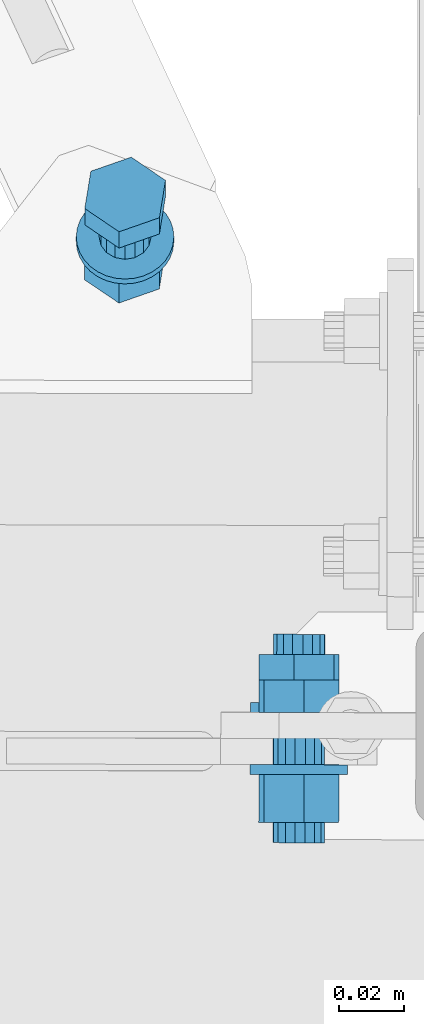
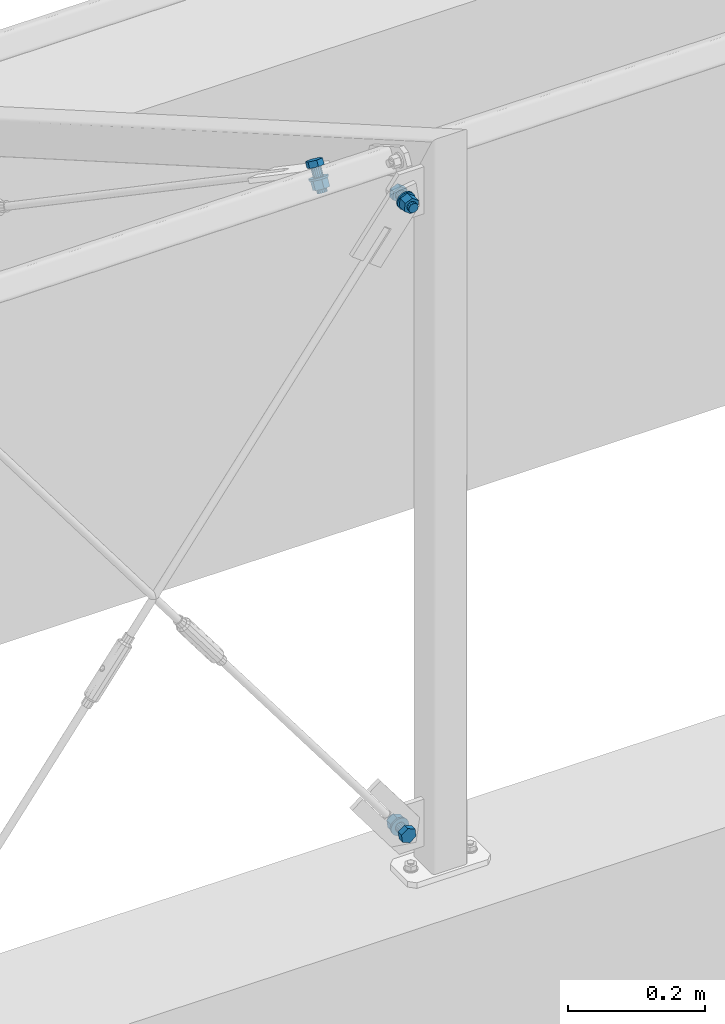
# One storey, part 197 of 288: 3 mechanical fasteners.
"""IFC2X3 building model written with IfcOpenShell, lengths in millimetres."""

import ifcopenshell
import ifcopenshell.guid

model = None  # the IFC model being written
_history = None  # IfcOwnerHistory: only IFC2X3 demands one
_inside = {}  # id of a spatial element -> (the spatial element, [elements in it])
_under = {}  # id of a project, library or spatial element -> (it, [spatial elements below it])
_declared = {}  # id of a project -> (the project, [libraries it declares])
_typed = {}  # id of a type object -> (the type object, [elements of that type])
_made_of = {}  # id of a material, layer set ... -> (it, [elements and type objects made of it])


def new_model(schema):
    """Start an empty IFC model of exactly this schema.

    Asked for "IFC4X3", IfcOpenShell would pick the latest addendum, in which some entities
    have other attributes; the version numbers below select the first issue.
    IFC2X3 requires an IfcOwnerHistory on every rooted entity: one is made here for all.
    """
    global model, _history
    if schema == "IFC4X3":
        model = ifcopenshell.file(schema_version=(4, 3, 0, 0))
    else:
        model = ifcopenshell.file(schema=schema)
    _inside.clear()
    _under.clear()
    _declared.clear()
    _typed.clear()
    _made_of.clear()
    _history = None
    if model.schema == "IFC2X3":
        org = make("IfcOrganization", Name="unknown")
        user = make(
            "IfcPersonAndOrganization",
            ThePerson=make("IfcPerson", FamilyName="unknown"),
            TheOrganization=org,
        )
        app = make(
            "IfcApplication",
            ApplicationDeveloper=org,
            Version="unknown",
            ApplicationFullName="unknown",
            ApplicationIdentifier="unknown",
        )
        _history = make(
            "IfcOwnerHistory",
            OwningUser=user,
            OwningApplication=app,
            ChangeAction="ADDED",
            CreationDate=0,
        )
    return model


def make(cls, **values):
    """One entity of the class cls with the attributes given. An attribute that is None is left unset."""
    return model.create_entity(
        cls, **{name: value for name, value in values.items() if value is not None}
    )


def entity(cls, *values):
    """Any entity or typed value of the class cls, its attributes in the order of the schema. None: left unset."""
    e = model.create_entity(cls)
    for i, value in enumerate(values):
        if value is not None:
            e[i] = value
    return e


def rooted(cls, **values):
    """An entity with a GlobalId (a new one), such as an element, a storey or a relation."""
    return make(cls, GlobalId=ifcopenshell.guid.new(), OwnerHistory=_history, **values)


def si_unit(unit_type, name, prefix=None):
    """IfcSIUnit, for example si_unit("LENGTHUNIT", "METRE", prefix="MILLI")."""
    return make("IfcSIUnit", UnitType=unit_type, Prefix=prefix, Name=name)


def converted_unit(unit_type, name, factor, base, dimensions=None, offset=None):
    """IfcConversionBasedUnit, such as the inch: factor (a typed value) times the base unit."""
    return make(
        "IfcConversionBasedUnit"
        if offset is None
        else "IfcConversionBasedUnitWithOffset",
        ConversionOffset=offset,
        Dimensions=None
        if dimensions is None
        else entity("IfcDimensionalExponents", *dimensions),
        UnitType=unit_type,
        Name=name,
        ConversionFactor=make(
            "IfcMeasureWithUnit", ValueComponent=factor, UnitComponent=base
        ),
    )


def assignment(units):
    """IfcUnitAssignment: the units of a project."""
    return None if units is None else make("IfcUnitAssignment", Units=units)


def point(xyz):
    """IfcCartesianPoint."""
    return None if xyz is None else make("IfcCartesianPoint", Coordinates=xyz)


def direction(xyz):
    """IfcDirection."""
    return None if xyz is None else make("IfcDirection", DirectionRatios=xyz)


def frame(location, z_axis=None, x_axis=None):
    """IfcAxis2Placement3D, a coordinate frame: its origin and axes. An axis left out is left unset."""
    return make(
        "IfcAxis2Placement3D",
        Location=point(location),
        Axis=direction(z_axis),
        RefDirection=direction(x_axis),
    )


def origin_with_axes():
    """The frame at (0, 0, 0) with the z axis (0, 0, 1) and the x axis (1, 0, 0) written out."""
    return frame((0.0, 0.0, 0.0), z_axis=(0.0, 0.0, 1.0), x_axis=(1.0, 0.0, 0.0))


def place(relative_to, where):
    """IfcLocalPlacement: puts the frame where relative to a parent placement (None: the world)."""
    return make(
        "IfcLocalPlacement", PlacementRelTo=relative_to, RelativePlacement=where
    )


def context(
    kind, dimensions, precision=None, world=None, true_north=None, identifier=None
):
    """IfcGeometricRepresentationContext, for example the 3D "Model" context."""
    return make(
        "IfcGeometricRepresentationContext",
        ContextIdentifier=identifier,
        ContextType=kind,
        CoordinateSpaceDimension=dimensions,
        Precision=precision,
        WorldCoordinateSystem=world,
        TrueNorth=true_north,
    )


def project(units=None, contexts=None):
    """IfcProject with its units and contexts."""
    return rooted(
        "IfcProject",
        Name="project",
        RepresentationContexts=contexts,
        UnitsInContext=assignment(units),
    )


def spatial(cls, under=None, at=None, **own):
    """A site, building, storey or space (cls), placed at a placement, below another one or the project."""
    s = rooted(cls, ObjectPlacement=at, **own)
    if under is not None:
        _under.setdefault(under.id(), (under, []))[1].append(s)
    return s


def faces_of(points, faces, orient=None, outer=None):
    """IfcFace entities. A face is a list of loops; a loop is a list of indices into points, from 0.

    orient and outer hold one flag for each loop. By default every Orientation is true, the
    first loop of a face is its IfcFaceOuterBound and the others are IfcFaceBound.
    """
    made = []
    for i, loops in enumerate(faces):
        bounds = []
        for j, loop in enumerate(loops):
            is_outer = j == 0 if outer is None else outer[i][j]
            bounds.append(
                make(
                    "IfcFaceOuterBound" if is_outer else "IfcFaceBound",
                    Bound=make("IfcPolyLoop", Polygon=[points[k] for k in loop]),
                    Orientation=True if orient is None else orient[i][j],
                )
            )
        made.append(make("IfcFace", Bounds=bounds))
    return made


def faceted_brep(points, faces, orient=None, outer=None, voids=None):
    """IfcFacetedBrep: a solid bounded by flat faces; with voids (closed shells), ...WithVoids."""
    shared = [point(p) for p in points]
    hull = make("IfcClosedShell", CfsFaces=faces_of(shared, faces, orient, outer))
    if voids is None:
        return make("IfcFacetedBrep", Outer=hull)
    return make(
        "IfcFacetedBrepWithVoids",
        Outer=hull,
        Voids=[
            make(cls, CfsFaces=faces_of(shared, fs, o, b)) for cls, fs, o, b in voids
        ],
    )


def shape(context_of_items, identifier, shape_type, items):
    """IfcShapeRepresentation: the items that make up one representation, for example the "Body"."""
    return make(
        "IfcShapeRepresentation",
        ContextOfItems=context_of_items,
        RepresentationIdentifier=identifier,
        RepresentationType=shape_type,
        Items=items,
    )


def made_of(thing, what):
    """Note that an element or type object is made of a material, layer set ...; save() writes the relation."""
    if what is not None:
        _made_of.setdefault(what.id(), (what, []))[1].append(thing)
    return thing


def element(
    cls,
    number,
    at=None,
    inside=None,
    cuts=None,
    type_object=None,
    material=None,
    context=None,
    identifier="Body",
    shape_type=None,
    held_by="IfcProductDefinitionShape",
    body=None,
    shapes=None,
    **own,
):
    """One element of the class cls, such as IfcWall. Its Tag is "e" and its number.

    at: its placement. inside: the storey or other place that contains it. cuts: it is an
    opening in that element (IfcRelVoidsElement). A single representation is given by context,
    identifier, shape_type and body (its items); several are given by shapes. held_by: the class
    of the entity that holds the representations. save() writes the other relations.
    """
    e = rooted(cls, Tag="e%d" % number, ObjectPlacement=at, **own)
    if body is not None:
        shapes = [shape(context, identifier, shape_type, body)]
    if shapes is not None:
        e.Representation = make(held_by, Representations=shapes)
    if inside is not None:
        _inside.setdefault(inside.id(), (inside, []))[1].append(e)
    if cuts is not None:
        rooted(
            "IfcRelVoidsElement", RelatingBuildingElement=cuts, RelatedOpeningElement=e
        )
    if type_object is not None:
        _typed.setdefault(type_object.id(), (type_object, []))[1].append(e)
    return made_of(e, material)


def aggregate(whole, parts):
    """IfcRelAggregates: a whole, such as a stair, and the parts it consists of."""
    return rooted("IfcRelAggregates", RelatingObject=whole, RelatedObjects=parts)


def save(model, path):
    """Write the relations noted so far, then the file.

    IfcRelAggregates (storeys below a building ...), IfcRelContainedInSpatialStructure (elements
    in a storey), IfcRelDefinesByType, IfcRelAssociatesMaterial and IfcRelDeclares: one each for
    every whole, place, type object, material and project.
    """
    for whole, parts in _under.values():
        aggregate(whole, parts)
    for where, things in _inside.values():
        rooted(
            "IfcRelContainedInSpatialStructure",
            RelatedElements=things,
            RelatingStructure=where,
        )
    for kind, things in _typed.values():
        rooted("IfcRelDefinesByType", RelatedObjects=things, RelatingType=kind)
    for what, things in _made_of.values():
        rooted("IfcRelAssociatesMaterial", RelatedObjects=things, RelatingMaterial=what)
    for by, libraries in _declared.values():
        rooted("IfcRelDeclares", RelatingContext=by, RelatedDefinitions=libraries)
    model.write(path)


model = new_model("IFC2X3")

# Units and contexts
model_context = context("Model", 3, precision=1e-09, world=origin_with_axes())
ifc_project = project(units=[si_unit("LENGTHUNIT", "METRE", prefix="MILLI"), si_unit("AREAUNIT", "SQUARE_METRE"), si_unit("VOLUMEUNIT", "CUBIC_METRE"), converted_unit("PLANEANGLEUNIT", "DEGREE", entity("IfcPlaneAngleMeasure", 0.01745329), si_unit("PLANEANGLEUNIT", "RADIAN"), dimensions=[0, 0, 0, 0, 0, 0, 0])], contexts=[model_context])

# Site, building, storey
site_placement = place(None, origin_with_axes())
site = spatial("IfcSite", under=ifc_project, at=site_placement, Name="Remont ?wietlik?w nad MC w NCPP w Opolu", CompositionType="ELEMENT")
building_placement = place(site_placement, origin_with_axes())
building = spatial("IfcBuilding", under=site, at=building_placement, Name="Konstrukcja 1", CompositionType="ELEMENT")
storey_placement = place(building_placement, origin_with_axes())
storey = spatial("IfcBuildingStorey", under=building, at=storey_placement, Name="Default Storey", CompositionType="ELEMENT", Elevation=0.0)

# Mechanical fasteners
mechanical_fastener_1_placement = place(None, origin_with_axes())
element("IfcMechanicalFastener", 1, at=mechanical_fastener_1_placement, inside=storey, ObjectType="Bolt#1", NominalDiameter=16.0, NominalLength=40.0, context=model_context, shape_type="Brep", body=[
    faceted_brep([(2870.969483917, -127.465781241, 1203.52010904), (2870.993046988, -117.465809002, 1203.52010904), (2883.284130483, -117.49477065, 1208.794486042), (2883.260567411, -127.494742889, 1208.794486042), (2884.861940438, -117.498488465, 1222.076094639), (2884.838377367, -127.498460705, 1222.076094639), (2874.148666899, -117.473244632, 1230.083326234), (2874.125103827, -127.473216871, 1230.083326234), (2861.857583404, -117.444282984, 1224.808949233), (2861.834020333, -127.444255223, 1224.808949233), (2860.279773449, -117.440565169, 1211.527340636), (2860.256210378, -127.440537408, 1211.527340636)], [[[0, 1, 2, 3]], [[3, 2, 4, 5]], [[5, 4, 6, 7]], [[7, 6, 8, 9]], [[9, 8, 10, 11]], [[11, 10, 1, 0]], [[4, 2, 1, 10, 8, 6]], [[0, 3, 5, 7, 9, 11]]]),
    faceted_brep([(2877.336652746, -127.480784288, 1223.20967474), (2877.298951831, -143.480739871, 1223.20967474), (2879.386595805, -143.485659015, 1220.889084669), (2879.42429672, -127.485703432, 1220.889084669), (2880.427278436, -143.488111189, 1217.94623002), (2880.464979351, -127.488155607, 1217.94623002), (2880.262565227, -143.487723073, 1214.829133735), (2880.300266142, -127.487767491, 1214.829133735), (2878.917532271, -143.484553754, 1212.012345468), (2878.955233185, -127.484598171, 1212.012345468), (2876.596948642, -143.479085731, 1209.924695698), (2876.634649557, -127.479130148, 1209.924695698), (2873.654102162, -143.472151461, 1208.884010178), (2873.691803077, -127.472195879, 1208.884010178), (2870.537014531, -143.464806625, 1209.048723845), (2870.574715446, -127.464851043, 1209.048723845), (2867.720234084, -143.458169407, 1210.393760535), (2867.757934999, -127.458213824, 1210.393760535), (2865.63259011, -143.453250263, 1212.714350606), (2865.670291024, -127.45329468, 1212.714350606), (2864.591907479, -143.450798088, 1215.657205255), (2864.629608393, -127.450842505, 1215.657205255), (2864.756620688, -143.451186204, 1218.77430154), (2864.794321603, -127.451230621, 1218.77430154), (2866.101653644, -143.454355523, 1221.591089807), (2866.139354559, -127.454399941, 1221.591089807), (2868.422237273, -143.459823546, 1223.678739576), (2868.459938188, -127.459867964, 1223.678739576), (2871.365083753, -143.466757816, 1224.719425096), (2871.402784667, -127.466802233, 1224.719425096), (2874.482171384, -143.474102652, 1224.55471143), (2874.519872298, -127.47414707, 1224.55471143)], [[[0, 1, 2, 3]], [[3, 2, 4, 5]], [[5, 4, 6, 7]], [[7, 6, 8, 9]], [[9, 8, 10, 11]], [[11, 10, 12, 13]], [[13, 12, 14, 15]], [[15, 14, 16, 17]], [[17, 16, 18, 19]], [[19, 18, 20, 21]], [[21, 20, 22, 23]], [[23, 22, 24, 25]], [[25, 24, 26, 27]], [[27, 26, 28, 29]], [[29, 28, 30, 31]], [[31, 30, 1, 0]], [[0, 3, 5, 7, 9, 11, 13, 15, 17, 19, 21, 23, 25, 27, 29, 31]], [[1, 30, 28, 26, 24, 22, 20, 18, 16, 14, 12, 10, 8, 6, 4, 2]]]),
    faceted_brep([(2881.489640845, -143.490614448, 1228.816637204), (2881.482571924, -146.49060612, 1228.816637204), (2883.654010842, -146.495722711, 1226.833848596), (2883.661079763, -143.49573104, 1226.833848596), (2885.396904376, -146.499829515, 1224.465530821), (2885.403973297, -143.499837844, 1224.465530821), (2886.644274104, -146.50276871, 1221.802697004), (2886.651343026, -143.502777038, 1221.802697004), (2887.348184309, -146.504427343, 1218.947678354), (2887.35525323, -143.504435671, 1218.947678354), (2887.481584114, -146.504741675, 1216.010191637), (2887.488653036, -143.504750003, 1216.010191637), (2887.039347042, -146.503699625, 1213.10312282), (2887.046415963, -143.503707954, 1213.10312282), (2886.038468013, -146.501341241, 1210.338188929), (2886.045536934, -143.501349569, 1210.338188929), (2884.517410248, -146.497757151, 1207.82164482), (2884.52447917, -143.49776548, 1207.82164482), (2882.534627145, -146.493085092, 1205.650199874), (2882.541696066, -143.493093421, 1205.650199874), (2880.166315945, -146.487504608, 1203.907301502), (2880.173384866, -143.487512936, 1203.907301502), (2877.503489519, -146.481230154, 1202.65992831), (2877.510558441, -143.481238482, 1202.65992831), (2874.648478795, -146.474502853, 1201.956016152), (2874.655547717, -143.474511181, 1201.956016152), (2871.711000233, -146.467581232, 1201.822615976), (2871.718069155, -143.46758956, 1201.822615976), (2868.803939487, -146.460731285, 1202.264854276), (2868.811008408, -143.460739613, 1202.264854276), (2866.039013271, -146.454216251, 1203.265736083), (2866.046082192, -143.45422458, 1203.265736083), (2863.522476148, -146.448286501, 1204.786798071), (2863.52954507, -143.448294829, 1204.786798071), (2861.35103723, -146.443169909, 1206.769586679), (2861.358106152, -143.443178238, 1206.769586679), (2859.608143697, -146.439063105, 1209.137904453), (2859.615212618, -143.439071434, 1209.137904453), (2858.360773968, -146.436123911, 1211.800738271), (2858.367842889, -143.436132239, 1211.800738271), (2857.656863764, -146.434465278, 1214.655756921), (2857.663932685, -143.434473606, 1214.655756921), (2857.523463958, -146.434150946, 1217.593243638), (2857.530532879, -143.434159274, 1217.593243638), (2857.965701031, -146.435192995, 1220.500312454), (2857.972769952, -143.435201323, 1220.500312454), (2858.966580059, -146.43755138, 1223.265246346), (2858.973648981, -143.437559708, 1223.265246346), (2860.487637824, -146.441135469, 1225.781790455), (2860.494706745, -143.441143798, 1225.781790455), (2862.470420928, -146.445807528, 1227.953235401), (2862.477489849, -143.445815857, 1227.953235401), (2864.838732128, -146.451388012, 1229.696133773), (2864.845801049, -143.451396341, 1229.696133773), (2867.501558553, -146.457662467, 1230.943506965), (2867.508627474, -143.457670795, 1230.943506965), (2870.356569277, -146.464389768, 1231.647419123), (2870.363638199, -143.464398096, 1231.647419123), (2873.294047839, -146.471311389, 1231.780819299), (2873.301116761, -143.471319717, 1231.780819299), (2876.201108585, -146.478161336, 1231.338580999), (2876.208177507, -143.478169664, 1231.338580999), (2878.966034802, -146.484676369, 1230.337699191), (2878.973103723, -143.484684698, 1230.337699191)], [[[0, 1, 2, 3]], [[3, 2, 4, 5]], [[5, 4, 6, 7]], [[7, 6, 8, 9]], [[9, 8, 10, 11]], [[11, 10, 12, 13]], [[13, 12, 14, 15]], [[15, 14, 16, 17]], [[17, 16, 18, 19]], [[19, 18, 20, 21]], [[21, 20, 22, 23]], [[23, 22, 24, 25]], [[25, 24, 26, 27]], [[27, 26, 28, 29]], [[29, 28, 30, 31]], [[31, 30, 32, 33]], [[33, 32, 34, 35]], [[35, 34, 36, 37]], [[37, 36, 38, 39]], [[39, 38, 40, 41]], [[41, 40, 42, 43]], [[43, 42, 44, 45]], [[45, 44, 46, 47]], [[47, 46, 48, 49]], [[49, 48, 50, 51]], [[51, 50, 52, 53]], [[53, 52, 54, 55]], [[55, 54, 56, 57]], [[57, 56, 58, 59]], [[59, 58, 60, 61]], [[61, 60, 62, 63]], [[63, 62, 1, 0]], [[0, 3, 5, 7, 9, 11, 13, 15, 17, 19, 21, 23, 25, 27, 29, 31, 33, 35, 37, 39, 41, 43, 45, 47, 49, 51, 53, 55, 57, 59, 61, 63]], [[1, 62, 60, 58, 56, 54, 52, 50, 48, 46, 44, 42, 40, 38, 36, 34, 32, 30, 28, 26, 24, 22, 20, 18, 16, 14, 12, 10, 8, 6, 4, 2]]]),
    faceted_brep([(2870.889840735, -161.265687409, 1203.52010904), (2870.924714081, -146.465728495, 1203.52010904), (2883.215797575, -146.494690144, 1208.794486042), (2883.180924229, -161.294649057, 1208.794486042), (2884.793607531, -146.498407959, 1222.076094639), (2884.758734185, -161.298366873, 1222.076094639), (2874.080333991, -146.473164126, 1230.083326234), (2874.045460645, -161.273123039, 1230.083326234), (2861.789250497, -146.444202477, 1224.808949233), (2861.754377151, -161.244161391, 1224.808949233), (2860.211440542, -146.440484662, 1211.527340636), (2860.176567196, -161.240443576, 1211.527340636)], [[[0, 1, 2, 3]], [[3, 2, 4, 5]], [[5, 4, 6, 7]], [[7, 6, 8, 9]], [[9, 8, 10, 11]], [[11, 10, 1, 0]], [[4, 2, 1, 10, 8, 6]], [[0, 3, 5, 7, 9, 11]]]),
    faceted_brep([(2877.257009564, -161.280690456, 1223.20967474), (2877.242400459, -167.480673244, 1223.20967474), (2879.330044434, -167.485592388, 1220.889084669), (2879.344653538, -161.2856096, 1220.889084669), (2880.370727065, -167.488044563, 1217.94623002), (2880.385336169, -161.288061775, 1217.94623002), (2880.206013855, -167.487656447, 1214.829133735), (2880.22062296, -161.287673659, 1214.829133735), (2878.860980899, -167.484487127, 1212.012345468), (2878.875590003, -161.284504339, 1212.012345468), (2876.54039727, -167.479019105, 1209.924695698), (2876.555006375, -161.279036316, 1209.924695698), (2873.597550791, -167.472084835, 1208.884010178), (2873.612159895, -161.272102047, 1208.884010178), (2870.48046316, -167.464739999, 1209.048723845), (2870.495072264, -161.264757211, 1209.048723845), (2867.663682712, -167.45810278, 1210.393760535), (2867.678291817, -161.258119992, 1210.393760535), (2865.576038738, -167.453183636, 1212.714350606), (2865.590647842, -161.253200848, 1212.714350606), (2864.535356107, -167.450731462, 1215.657205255), (2864.549965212, -161.250748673, 1215.657205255), (2864.700069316, -167.451119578, 1218.77430154), (2864.714678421, -161.251136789, 1218.77430154), (2866.045102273, -167.454288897, 1221.591089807), (2866.059711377, -161.254306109, 1221.591089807), (2868.365685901, -167.45975692, 1223.678739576), (2868.380295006, -161.259774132, 1223.678739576), (2871.308532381, -167.46669119, 1224.719425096), (2871.323141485, -161.266708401, 1224.719425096), (2874.425620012, -167.474036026, 1224.55471143), (2874.440229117, -161.274053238, 1224.55471143)], [[[0, 1, 2, 3]], [[3, 2, 4, 5]], [[5, 4, 6, 7]], [[7, 6, 8, 9]], [[9, 8, 10, 11]], [[11, 10, 12, 13]], [[13, 12, 14, 15]], [[15, 14, 16, 17]], [[17, 16, 18, 19]], [[19, 18, 20, 21]], [[21, 20, 22, 23]], [[23, 22, 24, 25]], [[25, 24, 26, 27]], [[27, 26, 28, 29]], [[29, 28, 30, 31]], [[31, 30, 1, 0]], [[0, 3, 5, 7, 9, 11, 13, 15, 17, 19, 21, 23, 25, 27, 29, 31]], [[1, 30, 28, 26, 24, 22, 20, 18, 16, 14, 12, 10, 8, 6, 4, 2]]]),
])
mechanical_fastener_2_placement = place(None, origin_with_axes())
element("IfcMechanicalFastener", 2, at=mechanical_fastener_2_placement, inside=storey, ObjectType="Bolt#1", NominalDiameter=16.0, NominalLength=40.0, context=model_context, shape_type="Brep", body=[
    faceted_brep([(2870.932717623, -143.38640896, 101.479891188), (2870.91104251, -153.386385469, 101.479891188), (2883.202131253, -153.413026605, 96.205514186), (2883.223806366, -143.413050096, 96.205514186), (2884.779941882, -153.416446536, 82.923905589), (2884.801616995, -143.416470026, 82.923905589), (2874.066663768, -153.39322533, 74.916673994), (2874.088338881, -143.39324882, 74.916673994), (2861.775575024, -153.366584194, 80.191050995), (2861.797250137, -143.366607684, 80.191050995), (2860.197764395, -153.363164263, 93.472659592), (2860.219439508, -143.363187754, 93.472659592)], [[[0, 1, 2, 3]], [[3, 2, 4, 5]], [[5, 4, 6, 7]], [[7, 6, 8, 9]], [[9, 8, 10, 11]], [[11, 10, 1, 0]], [[4, 2, 1, 10, 8, 6]], [[0, 3, 5, 7, 9, 11]]]),
    faceted_brep([(2877.29988917, -143.400209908, 81.790325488), (2877.334569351, -127.400247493, 81.790325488), (2879.422214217, -127.404772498, 84.110915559), (2879.387534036, -143.404734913, 84.110915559), (2880.462897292, -127.407028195, 87.053770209), (2880.428217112, -143.40699061, 87.053770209), (2880.298184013, -127.406671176, 90.170866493), (2880.263503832, -143.406633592, 90.170866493), (2878.953150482, -127.403755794, 92.98765476), (2878.918470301, -143.403718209, 92.98765476), (2876.632565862, -127.398725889, 95.07530453), (2876.597885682, -143.398688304, 95.07530453), (2873.689718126, -127.392347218, 96.11599005), (2873.655037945, -143.392309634, 96.11599005), (2870.572629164, -127.385590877, 95.951276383), (2870.537948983, -143.385553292, 95.951276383), (2867.755847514, -127.379485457, 94.606239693), (2867.721167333, -143.379447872, 94.606239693), (2865.668202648, -127.374960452, 92.285649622), (2865.633522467, -143.374922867, 92.285649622), (2864.627519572, -127.372704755, 89.342794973), (2864.592839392, -143.37266717, 89.342794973), (2864.792232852, -127.373061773, 86.225698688), (2864.757552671, -143.373024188, 86.225698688), (2866.137266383, -127.375977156, 83.408910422), (2866.102586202, -143.375939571, 83.408910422), (2868.457851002, -127.381007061, 81.321260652), (2868.423170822, -143.380969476, 81.321260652), (2871.400698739, -127.387385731, 80.280575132), (2871.366018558, -143.387348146, 80.280575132), (2874.517787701, -127.394142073, 80.445288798), (2874.48310752, -143.394104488, 80.445288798)], [[[0, 1, 2, 3]], [[3, 2, 4, 5]], [[5, 4, 6, 7]], [[7, 6, 8, 9]], [[9, 8, 10, 11]], [[11, 10, 12, 13]], [[13, 12, 14, 15]], [[15, 14, 16, 17]], [[17, 16, 18, 19]], [[19, 18, 20, 21]], [[21, 20, 22, 23]], [[23, 22, 24, 25]], [[25, 24, 26, 27]], [[27, 26, 28, 29]], [[29, 28, 30, 31]], [[31, 30, 1, 0]], [[0, 3, 5, 7, 9, 11, 13, 15, 17, 19, 21, 23, 25, 27, 29, 31]], [[1, 30, 28, 26, 24, 22, 20, 18, 16, 14, 12, 10, 8, 6, 4, 2]]]),
    faceted_brep([(2881.525260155, -127.409330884, 76.183363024), (2881.531762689, -124.409337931, 76.183363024), (2883.703202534, -124.414044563, 78.166151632), (2883.6967, -127.414037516, 78.166151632), (2885.446096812, -124.417822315, 80.534469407), (2885.439594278, -127.417815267, 80.534469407), (2886.693467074, -124.42052601, 83.197303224), (2886.68696454, -127.420518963, 83.197303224), (2887.397377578, -124.422051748, 86.052321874), (2887.390875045, -127.4220447, 86.052321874), (2887.530777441, -124.422340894, 88.989808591), (2887.524274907, -127.422333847, 88.989808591), (2887.088540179, -124.421382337, 91.896877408), (2887.082037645, -127.42137529, 91.896877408), (2886.087660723, -124.419212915, 94.6618113), (2886.081158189, -127.419205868, 94.6618113), (2884.566602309, -124.415915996, 97.178355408), (2884.560099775, -127.415908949, 97.178355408), (2882.583818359, -124.411618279, 99.349800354), (2882.577315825, -127.411611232, 99.349800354), (2880.215506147, -124.406484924, 101.092698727), (2880.209003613, -127.406477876, 101.092698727), (2877.552678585, -124.400713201, 102.340071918), (2877.546176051, -127.400706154, 102.340071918), (2874.697666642, -124.394524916, 103.043984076), (2874.691164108, -127.394517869, 103.043984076), (2871.760186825, -124.388157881, 103.177384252), (2871.753684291, -127.388150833, 103.177384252), (2868.853124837, -124.381856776, 102.735145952), (2868.846622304, -127.381849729, 102.735145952), (2866.08819744, -124.375863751, 101.734264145), (2866.081694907, -127.375856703, 101.734264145), (2863.571659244, -124.370409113, 100.213202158), (2863.56515671, -127.370402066, 100.213202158), (2861.400219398, -124.365702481, 98.230413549), (2861.393716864, -127.365695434, 98.230413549), (2859.65732512, -124.36192473, 95.862095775), (2859.650822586, -127.361917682, 95.862095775), (2858.409954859, -124.359221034, 93.199261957), (2858.403452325, -127.359213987, 93.199261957), (2857.706044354, -124.357695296, 90.344243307), (2857.69954182, -127.357688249, 90.344243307), (2857.572644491, -124.35740615, 87.40675659), (2857.566141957, -127.357399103, 87.40675659), (2858.014881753, -124.358364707, 84.499687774), (2858.008379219, -127.358357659, 84.499687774), (2859.015761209, -124.360534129, 81.734753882), (2859.009258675, -127.360527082, 81.734753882), (2860.536819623, -124.363831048, 79.218209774), (2860.530317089, -127.363824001, 79.218209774), (2862.519603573, -124.368128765, 77.046764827), (2862.51310104, -127.368121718, 77.046764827), (2864.887915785, -124.37326212, 75.303866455), (2864.881413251, -127.373255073, 75.303866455), (2867.550743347, -124.379033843, 74.056493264), (2867.544240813, -127.379026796, 74.056493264), (2870.405755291, -124.385222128, 73.352581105), (2870.399252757, -127.385215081, 73.352581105), (2873.343235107, -124.391589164, 73.219180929), (2873.336732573, -127.391582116, 73.219180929), (2876.250297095, -124.397890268, 73.66141923), (2876.243794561, -127.397883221, 73.66141923), (2879.015224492, -124.403883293, 74.662301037), (2879.008721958, -127.403876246, 74.662301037)], [[[0, 1, 2, 3]], [[3, 2, 4, 5]], [[5, 4, 6, 7]], [[7, 6, 8, 9]], [[9, 8, 10, 11]], [[11, 10, 12, 13]], [[13, 12, 14, 15]], [[15, 14, 16, 17]], [[17, 16, 18, 19]], [[19, 18, 20, 21]], [[21, 20, 22, 23]], [[23, 22, 24, 25]], [[25, 24, 26, 27]], [[27, 26, 28, 29]], [[29, 28, 30, 31]], [[31, 30, 32, 33]], [[33, 32, 34, 35]], [[35, 34, 36, 37]], [[37, 36, 38, 39]], [[39, 38, 40, 41]], [[41, 40, 42, 43]], [[43, 42, 44, 45]], [[45, 44, 46, 47]], [[47, 46, 48, 49]], [[49, 48, 50, 51]], [[51, 50, 52, 53]], [[53, 52, 54, 55]], [[55, 54, 56, 57]], [[57, 56, 58, 59]], [[59, 58, 60, 61]], [[61, 60, 62, 63]], [[63, 62, 1, 0]], [[0, 3, 5, 7, 9, 11, 13, 15, 17, 19, 21, 23, 25, 27, 29, 31, 33, 35, 37, 39, 41, 43, 45, 47, 49, 51, 53, 55, 57, 59, 61, 63]], [[1, 62, 60, 58, 56, 54, 52, 50, 48, 46, 44, 42, 40, 38, 36, 34, 32, 30, 28, 26, 24, 22, 20, 18, 16, 14, 12, 10, 8, 6, 4, 2]]]),
    faceted_brep([(2871.005979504, -109.586488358, 101.479891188), (2870.973900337, -124.386453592, 101.479891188), (2883.26498908, -124.413094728, 96.205514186), (2883.297068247, -109.613129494, 96.205514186), (2884.842799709, -124.416514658, 82.923905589), (2884.874878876, -109.616549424, 82.923905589), (2874.129521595, -124.393293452, 74.916673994), (2874.161600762, -109.593328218, 74.916673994), (2861.838432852, -124.366652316, 80.191050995), (2861.870512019, -109.566687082, 80.191050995), (2860.260622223, -124.363232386, 93.472659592), (2860.29270139, -109.563267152, 93.472659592)], [[[0, 1, 2, 3]], [[3, 2, 4, 5]], [[5, 4, 6, 7]], [[7, 6, 8, 9]], [[9, 8, 10, 11]], [[11, 10, 1, 0]], [[4, 2, 1, 10, 8, 6]], [[0, 3, 5, 7, 9, 11]]]),
    faceted_brep([(2877.373151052, -109.600289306, 81.790325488), (2877.386589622, -103.40030387, 81.790325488), (2879.474234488, -103.404828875, 84.110915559), (2879.460795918, -109.604814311, 84.110915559), (2880.514917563, -103.407084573, 87.053770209), (2880.501478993, -109.607070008, 87.053770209), (2880.350204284, -103.406727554, 90.170866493), (2880.336765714, -109.60671299, 90.170866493), (2879.005170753, -103.403812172, 92.98765476), (2878.991732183, -109.603797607, 92.98765476), (2876.684586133, -103.398782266, 95.07530453), (2876.671147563, -109.598767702, 95.07530453), (2873.741738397, -103.392403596, 96.11599005), (2873.728299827, -109.592389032, 96.11599005), (2870.624649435, -103.385647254, 95.951276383), (2870.611210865, -109.58563269, 95.951276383), (2867.807867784, -103.379541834, 94.606239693), (2867.794429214, -109.57952727, 94.606239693), (2865.720222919, -103.37501683, 92.285649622), (2865.706784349, -109.575002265, 92.285649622), (2864.679539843, -103.372761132, 89.342794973), (2864.666101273, -109.572746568, 89.342794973), (2864.844253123, -103.373118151, 86.225698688), (2864.830814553, -109.573103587, 86.225698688), (2866.189286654, -103.376033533, 83.408910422), (2866.175848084, -109.576018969, 83.408910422), (2868.509871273, -103.381063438, 81.321260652), (2868.496432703, -109.581048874, 81.321260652), (2871.45271901, -103.387442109, 80.280575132), (2871.43928044, -109.587427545, 80.280575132), (2874.569807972, -103.39419845, 80.445288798), (2874.556369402, -109.594183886, 80.445288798)], [[[0, 1, 2, 3]], [[3, 2, 4, 5]], [[5, 4, 6, 7]], [[7, 6, 8, 9]], [[9, 8, 10, 11]], [[11, 10, 12, 13]], [[13, 12, 14, 15]], [[15, 14, 16, 17]], [[17, 16, 18, 19]], [[19, 18, 20, 21]], [[21, 20, 22, 23]], [[23, 22, 24, 25]], [[25, 24, 26, 27]], [[27, 26, 28, 29]], [[29, 28, 30, 31]], [[31, 30, 1, 0]], [[0, 3, 5, 7, 9, 11, 13, 15, 17, 19, 21, 23, 25, 27, 29, 31]], [[1, 30, 28, 26, 24, 22, 20, 18, 16, 14, 12, 10, 8, 6, 4, 2]]]),
])
mechanical_fastener_3_placement = place(None, origin_with_axes())
element("IfcMechanicalFastener", 3, at=mechanical_fastener_3_placement, inside=storey, ObjectType="Bolt#1", NominalDiameter=16.0, NominalLength=40.0, context=model_context, shape_type="Brep", body=[
    faceted_brep([(2808.588096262, 38.885004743, 1197.128882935), (2808.576824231, 33.885020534, 1188.468627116), (2806.713438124, 22.415934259, 1195.092710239), (2806.724710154, 27.415918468, 1203.752966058), (2817.251864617, 15.277384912, 1199.200423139), (2817.263136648, 20.277369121, 1207.860678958), (2829.653677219, 19.607921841, 1196.684052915), (2829.664949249, 24.60790605, 1205.344308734), (2831.517063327, 31.077008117, 1190.059969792), (2831.528335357, 36.076992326, 1198.720225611), (2820.978636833, 38.215557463, 1185.952256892), (2820.989908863, 43.215541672, 1194.612512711)], [[[0, 1, 2, 3]], [[3, 2, 4, 5]], [[5, 4, 6, 7]], [[7, 6, 8, 9]], [[9, 8, 10, 11]], [[11, 10, 1, 0]], [[3, 5, 7, 9, 11, 0]], [[2, 1, 10, 8, 6, 4]]]),
    faceted_brep([(2822.092975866, 12.320702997, 1182.42595258), (2822.111011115, 20.320677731, 1196.282361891), (2819.044262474, 19.818574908, 1196.57624174), (2819.026227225, 11.818600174, 1182.719832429), (2815.988321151, 20.371181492, 1196.26117281), (2815.970285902, 12.371206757, 1182.4047635), (2813.408426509, 21.894368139, 1195.385121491), (2813.39039126, 13.894393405, 1181.528712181), (2811.697344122, 24.156243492, 1194.081458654), (2811.679308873, 16.156268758, 1180.225049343), (2811.115570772, 26.812457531, 1192.548655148), (2811.097535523, 18.812482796, 1178.692245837), (2811.751676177, 29.458625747, 1191.020066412), (2811.733640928, 21.458651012, 1177.163657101), (2813.508819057, 31.691893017, 1189.728406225), (2813.490783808, 23.691918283, 1175.871996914), (2816.119490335, 33.172264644, 1188.87031814), (2816.101455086, 25.17228991, 1175.01390883), (2819.186238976, 33.674367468, 1188.576438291), (2819.168203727, 25.674392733, 1174.720028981), (2822.242180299, 33.121760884, 1188.89150722), (2822.224145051, 25.12178615, 1175.03509791), (2824.822074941, 31.598574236, 1189.76755854), (2824.804039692, 23.598599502, 1175.911149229), (2826.533157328, 29.336698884, 1191.071221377), (2826.515122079, 21.336724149, 1177.214812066), (2827.114930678, 26.680484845, 1192.604024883), (2827.096895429, 18.680510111, 1178.747615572), (2826.478825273, 24.034316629, 1194.132613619), (2826.460790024, 16.034341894, 1180.276204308), (2824.721682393, 21.801049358, 1195.424273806), (2824.703647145, 13.801074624, 1181.567864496)], [[[0, 1, 2, 3]], [[3, 2, 4, 5]], [[5, 4, 6, 7]], [[7, 6, 8, 9]], [[9, 8, 10, 11]], [[11, 10, 12, 13]], [[13, 12, 14, 15]], [[15, 14, 16, 17]], [[17, 16, 18, 19]], [[19, 18, 20, 21]], [[21, 20, 22, 23]], [[23, 22, 24, 25]], [[25, 24, 26, 27]], [[27, 26, 28, 29]], [[29, 28, 30, 31]], [[31, 30, 1, 0]], [[2, 1, 30, 28, 26, 24, 22, 20, 18, 16, 14, 12, 10, 8, 6, 4]], [[31, 0, 3, 5, 7, 9, 11, 13, 15, 17, 19, 21, 23, 25, 27, 29]]]),
    faceted_brep([(2824.710884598, 5.19813846, 1183.070644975), (2824.714266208, 6.698133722, 1185.668721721), (2821.892907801, 5.982148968, 1186.08576655), (2821.889526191, 4.482153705, 1183.487689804), (2818.964112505, 5.756690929, 1186.219746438), (2818.960730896, 4.256695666, 1183.621669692), (2816.040432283, 6.030423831, 1186.065512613), (2816.037050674, 4.530428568, 1183.467435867), (2813.234222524, 6.792828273, 1185.628992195), (2813.230840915, 5.29283301, 1183.03091545), (2810.653324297, 8.01460548, 1184.926960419), (2810.649942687, 6.514610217, 1182.328883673), (2808.396920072, 9.648803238, 1183.986395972), (2808.393538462, 8.148807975, 1181.388319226), (2806.551722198, 11.632620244, 1182.843444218), (2806.548340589, 10.132624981, 1180.245367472), (2805.188640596, 13.889819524, 1181.542028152), (2805.185258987, 12.389824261, 1178.943951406), (2804.360057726, 16.333658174, 1180.132160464), (2804.356676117, 14.833662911, 1177.534083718), (2804.097815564, 18.870220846, 1178.668021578), (2804.094433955, 17.370225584, 1176.069944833), (2804.411991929, 21.40202886, 1177.205877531), (2804.40861032, 19.902033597, 1174.607800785), (2805.290513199, 23.831786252, 1175.801917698), (2805.28713159, 22.331790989, 1173.203840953), (2806.699618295, 26.066118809, 1174.510095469), (2806.696236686, 24.566123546, 1171.912018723), (2808.585156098, 28.019162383, 1173.380054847), (2808.581774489, 26.519167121, 1170.781978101), (2810.874666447, 29.615862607, 1172.45522266), (2810.871284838, 28.115867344, 1169.857145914), (2813.480164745, 30.794859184, 1171.771139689), (2813.476783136, 29.294863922, 1169.173062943), (2816.301523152, 31.510843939, 1171.35409486), (2816.298141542, 30.010848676, 1168.756018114), (2819.230318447, 31.736301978, 1171.220114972), (2819.226936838, 30.236306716, 1168.622038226), (2822.153998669, 31.462569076, 1171.374348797), (2822.15061706, 29.962573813, 1168.776272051), (2824.960208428, 30.700164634, 1171.810869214), (2824.956826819, 29.200169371, 1169.212792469), (2827.541106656, 29.478387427, 1172.512900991), (2827.537725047, 27.978392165, 1169.914824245), (2829.797510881, 27.844189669, 1173.453465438), (2829.794129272, 26.344194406, 1170.855388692), (2831.642708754, 25.860372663, 1174.596417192), (2831.639327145, 24.3603774, 1171.998340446), (2833.005790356, 23.603173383, 1175.897833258), (2833.002408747, 22.10317812, 1173.299756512), (2833.834373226, 21.159334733, 1177.307700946), (2833.830991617, 19.65933947, 1174.7096242), (2834.096615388, 18.622772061, 1178.771839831), (2834.093233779, 17.122776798, 1176.173763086), (2833.782439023, 16.090964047, 1180.233983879), (2833.779057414, 14.590968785, 1177.635907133), (2832.903917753, 13.661206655, 1181.637943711), (2832.900536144, 12.161211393, 1179.039866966), (2831.494812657, 11.426874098, 1182.929765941), (2831.491431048, 9.926878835, 1180.331689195), (2829.609274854, 9.473830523, 1184.059806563), (2829.605893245, 7.973835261, 1181.461729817), (2827.319764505, 7.8771303, 1184.98463875), (2827.316382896, 6.377135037, 1182.386562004)], [[[0, 1, 2, 3]], [[3, 2, 4, 5]], [[5, 4, 6, 7]], [[7, 6, 8, 9]], [[9, 8, 10, 11]], [[11, 10, 12, 13]], [[13, 12, 14, 15]], [[15, 14, 16, 17]], [[17, 16, 18, 19]], [[19, 18, 20, 21]], [[21, 20, 22, 23]], [[23, 22, 24, 25]], [[25, 24, 26, 27]], [[27, 26, 28, 29]], [[29, 28, 30, 31]], [[31, 30, 32, 33]], [[33, 32, 34, 35]], [[35, 34, 36, 37]], [[37, 36, 38, 39]], [[39, 38, 40, 41]], [[41, 40, 42, 43]], [[43, 42, 44, 45]], [[45, 44, 46, 47]], [[47, 46, 48, 49]], [[49, 48, 50, 51]], [[51, 50, 52, 53]], [[53, 52, 54, 55]], [[55, 54, 56, 57]], [[57, 56, 58, 59]], [[59, 58, 60, 61]], [[61, 60, 62, 63]], [[63, 62, 1, 0]], [[2, 1, 62, 60, 58, 56, 54, 52, 50, 48, 46, 44, 42, 40, 38, 36, 34, 32, 30, 28, 26, 24, 22, 20, 18, 16, 14, 12, 10, 8, 6, 4]], [[63, 0, 3, 5, 7, 9, 11, 13, 15, 17, 19, 21, 23, 25, 27, 29, 31, 33, 35, 37, 39, 41, 43, 45, 47, 49, 51, 53, 55, 57, 59, 61]]]),
    faceted_brep([(2808.555407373, 24.385050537, 1172.01414106), (2808.538724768, 16.985073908, 1159.196962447), (2806.67533866, 5.515987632, 1165.821045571), (2806.692021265, 12.915964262, 1178.638224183), (2817.213765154, -1.622561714, 1169.92875847), (2817.230447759, 5.777414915, 1182.745937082), (2829.615577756, 2.707975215, 1167.412388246), (2829.632260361, 10.107951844, 1180.229566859), (2831.478963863, 14.177061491, 1160.788305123), (2831.495646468, 21.57703812, 1173.605483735), (2820.940537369, 21.315610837, 1156.680592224), (2820.957219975, 28.715587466, 1169.497770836)], [[[0, 1, 2, 3]], [[3, 2, 4, 5]], [[5, 4, 6, 7]], [[7, 6, 8, 9]], [[9, 8, 10, 11]], [[11, 10, 1, 0]], [[3, 5, 7, 9, 11, 0]], [[2, 1, 10, 8, 6, 4]]]),
    faceted_brep([(2822.065922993, 0.320740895, 1161.641338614), (2822.072911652, 3.420731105, 1167.010697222), (2819.006163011, 2.918628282, 1167.304577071), (2818.999174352, -0.181361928, 1161.935218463), (2815.950221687, 3.471234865, 1166.989508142), (2815.943233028, 0.371244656, 1161.620149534), (2813.370327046, 4.994421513, 1166.113456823), (2813.363338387, 1.894431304, 1160.744098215), (2811.659244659, 7.256296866, 1164.809793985), (2811.652256, 4.156306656, 1159.440435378), (2811.077471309, 9.912510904, 1163.276990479), (2811.07048265, 6.812520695, 1157.907631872), (2811.713576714, 12.558679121, 1161.748401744), (2811.706588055, 9.458688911, 1156.379043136), (2813.470719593, 14.791946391, 1160.456741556), (2813.463730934, 11.691956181, 1155.087382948), (2816.081390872, 16.272318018, 1159.598653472), (2816.074402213, 13.172327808, 1154.229294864), (2819.148139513, 16.774420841, 1159.304773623), (2819.141150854, 13.674430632, 1153.935415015), (2822.204080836, 16.221814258, 1159.619842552), (2822.197092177, 13.121824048, 1154.250483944), (2824.783975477, 14.69862761, 1160.495893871), (2824.776986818, 11.5986374, 1155.126535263), (2826.495057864, 12.436752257, 1161.799556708), (2826.488069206, 9.336762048, 1156.430198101), (2827.076831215, 9.780538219, 1163.332360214), (2827.069842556, 6.680548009, 1157.963001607), (2826.440725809, 7.134370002, 1164.86094895), (2826.43373715, 4.034379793, 1159.491590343), (2824.68358293, 4.901102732, 1166.152609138), (2824.676594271, 1.801112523, 1160.78325053)], [[[0, 1, 2, 3]], [[3, 2, 4, 5]], [[5, 4, 6, 7]], [[7, 6, 8, 9]], [[9, 8, 10, 11]], [[11, 10, 12, 13]], [[13, 12, 14, 15]], [[15, 14, 16, 17]], [[17, 16, 18, 19]], [[19, 18, 20, 21]], [[21, 20, 22, 23]], [[23, 22, 24, 25]], [[25, 24, 26, 27]], [[27, 26, 28, 29]], [[29, 28, 30, 31]], [[31, 30, 1, 0]], [[2, 1, 30, 28, 26, 24, 22, 20, 18, 16, 14, 12, 10, 8, 6, 4]], [[31, 0, 3, 5, 7, 9, 11, 13, 15, 17, 19, 21, 23, 25, 27, 29]]]),
])

save(model, "model.ifc")
